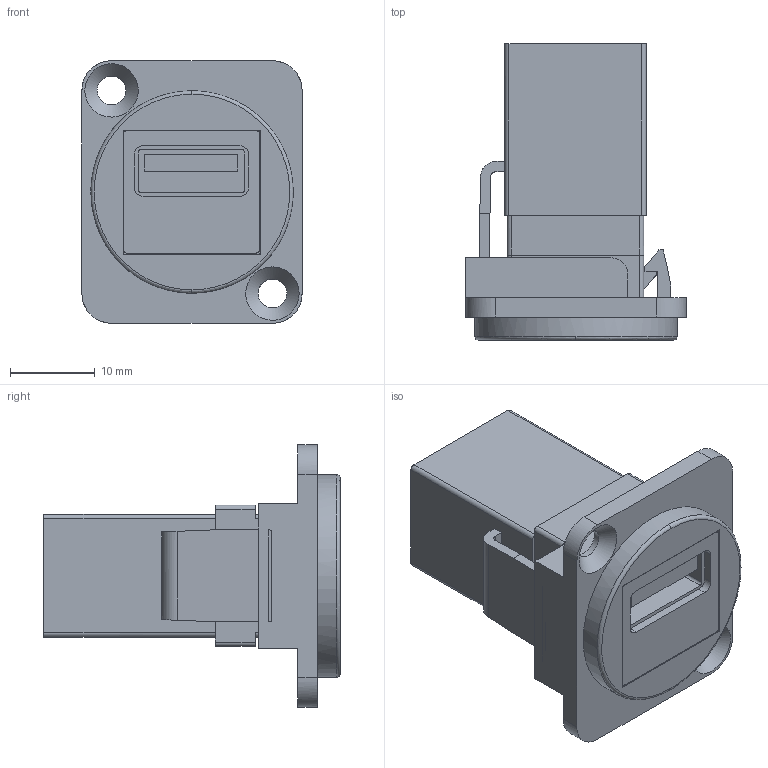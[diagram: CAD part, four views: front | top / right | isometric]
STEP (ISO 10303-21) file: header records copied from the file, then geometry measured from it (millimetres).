
FILE_DESCRIPTION(('FreeCAD Model'),'2;1');
FILE_NAME('Open CASCADE Shape Model','2026-05-13T13:48:31',(''),(''), 'Open CASCADE STEP processor 7.8','FreeCAD','Unknown');
FILE_SCHEMA(('AUTOMOTIVE_DESIGN { 1 0 10303 214 1 1 1 1 }'));
Length unit declared in the file: millimetre
Products named in the file (3): PMNST_USB3A_BK; 3013BUSXLRBK; FAU3-AFAF180-xx-ABS
Assembly tree (2 placements, depth 2):
  PMNST_USB3A_BK
    3013BUSXLRBK
    FAU3-AFAF180-xx-ABS
Bounding box: 26 x 35 x 31 mm (x, y, z)
Volume: 9848.3 mm3; surface area: 7014.3 mm2
Topology: 2 solids, 2 shells, 153 faces, 419 edges, 278 vertices
Faces by surface type: bspline 153
Entity records: 7566 total; most frequent: CARTESIAN_POINT 4943, ORIENTED_EDGE 838, EDGE_CURVE 419, B_SPLINE_CURVE_WITH_KNOTS 419, VERTEX_POINT 278, FACE_BOUND 167, EDGE_LOOP 167, ADVANCED_FACE 153
